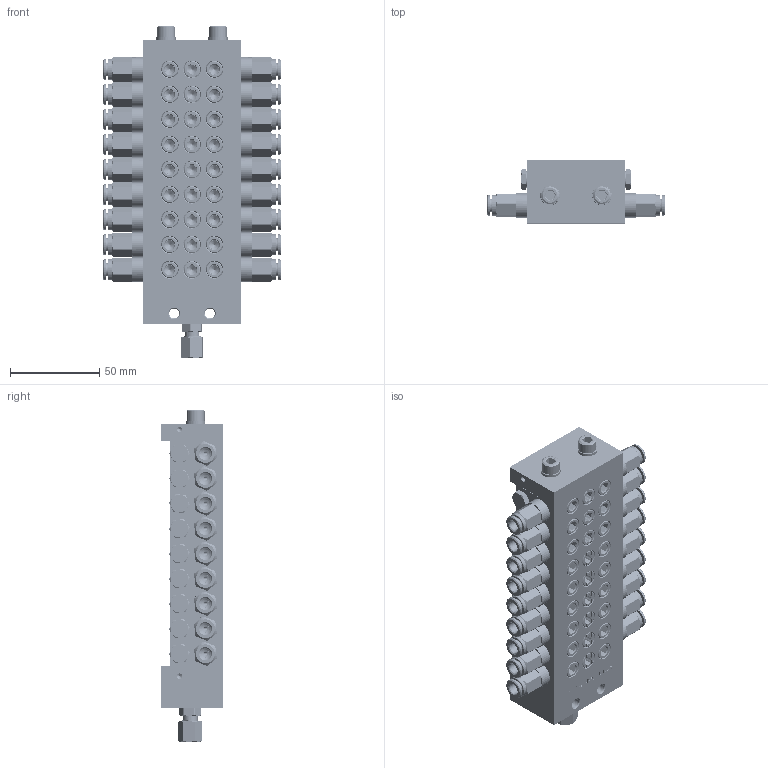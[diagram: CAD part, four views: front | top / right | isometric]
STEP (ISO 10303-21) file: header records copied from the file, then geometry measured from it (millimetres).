
FILE_DESCRIPTION (( 'STEP AP214' ), '1' );
FILE_NAME ('STW_XV_0143_18_0502_18_Auslässe.STEP', '2026-02-04T10:26:12', ( '' ), ( '' ), 'SwSTEP 2.0', 'SolidWorks 2022', '' );
FILE_SCHEMA (( 'AUTOMOTIVE_DESIGN' ));
Length unit declared in the file: millimetre
Products named in the file (18): OR 7.66X1.78_1; Verschlussstopfen_1_8_2; H200139_HDS01_6_M10X1_08.05.17; XV_Mittelelement; M6X65_DIN_912; 991214010601_Mutter; 991214010601_Koerper; STW_XV_ENGANG; DR6-C_HDX_25.07.16_1; STW_XV_0143_18_0502_18_Auslässe; 991214010601_Schneidring; STW_XV_Verbindungsstopen; RIVOLUZIONE_0_2; 991214010601; STW_XV_MITTEL_1; U_Scheibe_6; STW_XV_END; STW_XV_Kolbenanschlag
Assembly tree (61 placements, depth 3):
  STW_XV_0143_18_0502_18_Auslässe
    STW_XV_ENGANG
    STW_XV_MITTEL_1  x3
    STW_XV_END
    Verschlussstopfen_1_8_2  x6
    STW_XV_Kolbenanschlag  x6
    STW_XV_Verbindungsstopen  x3
    M6X65_DIN_912  x2
    U_Scheibe_6  x2
    991214010601
      991214010601_Koerper
      991214010601_Schneidring
      991214010601_Mutter
    XV_Mittelelement  x6
      STW_XV_MITTEL_1
      STW_XV_Kolbenanschlag
      Verschlussstopfen_1_8_2
      STW_XV_Verbindungsstopen
    H200139_HDS01_6_M10X1_08.05.17  x18
      OR 7.66X1.78_1
      DR6-C_HDX_25.07.16_1
      RIVOLUZIONE_0_2
Bounding box: 99.6 x 35 x 185.68 mm (x, y, z)
Volume: 287638.3 mm3; surface area: 177584.2 mm2
Topology: 117 solids, 117 shells, 3837 faces, 9945 edges, 6402 vertices
Faces by surface type: plane 1884, cylinder 945, cone 762, bspline 228, torus 18
Full cylindrical faces by diameter (mm): 2 x233, 3 x16, 4.2 x18, 4.5 x1, 5 x92, 5.5 x2, 5.9 x2, 6 x3, 6.2 x39, 6.3 x18, 6.4 x2, 6.5 x18, 7 x18, 7.2 x18, 7.4 x1, 7.67 x1, 8 x19, 8.3 x1, 8.4 x9, 8.5 x18, 8.6 x45, 9 x20, 9.7 x18, 9.73 x9, 9.8 x7, 9.9 x18, 10 x56, 10.3 x18, 11 x2, 11.5 x18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
Entity records: 44921 total; most frequent: CARTESIAN_POINT 22310, ORIENTED_EDGE 2994, DIRECTION 2647, EDGE_CURVE 1497, VERTEX_POINT 1072, EDGE_LOOP 1011, AXIS2_PLACEMENT_3D 950, FACE_OUTER_BOUND 812
